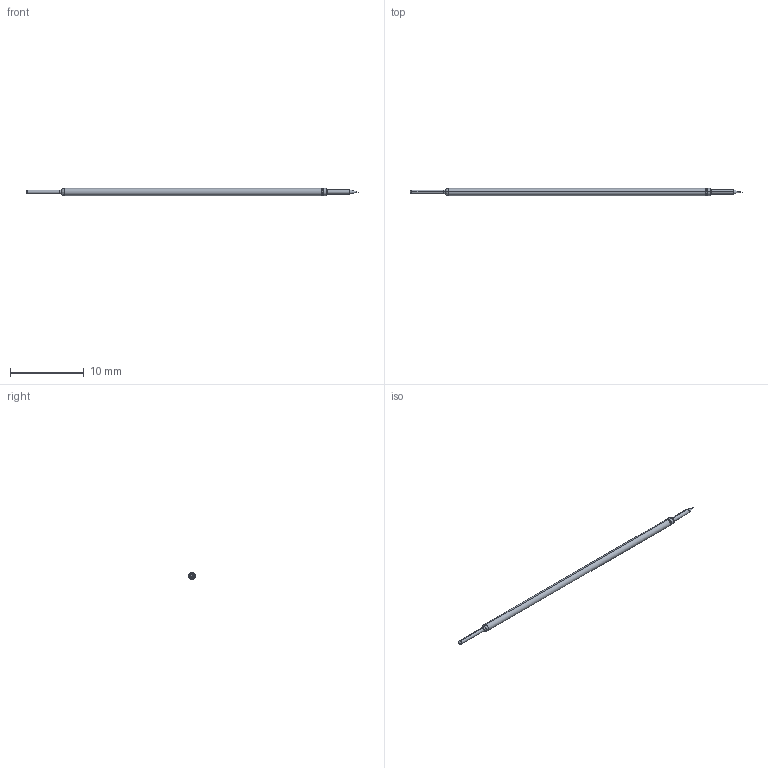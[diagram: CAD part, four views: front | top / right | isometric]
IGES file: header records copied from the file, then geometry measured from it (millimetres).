
Start section: SolidWorks IGES file using analytic representation for surfaces
Global section: file name: C:\Documents and Settings\mrumschlag\Desktop\changes\new\test\B RECD.IGS; native system: SolidWorks 2011; preprocessor: SolidWorks 2011; author: mrumschlag; date: 110630.163411; units: inch
Bounding box: 45.03 x 0.97 x 0.97 mm (x, y, z)
Surface area: 124.1 mm2 (no closed solid volume)
Topology: 0 solids, 0 shells, 25 faces, 132 edges, 128 vertices
Faces by surface type: revolution 16, bspline 9
